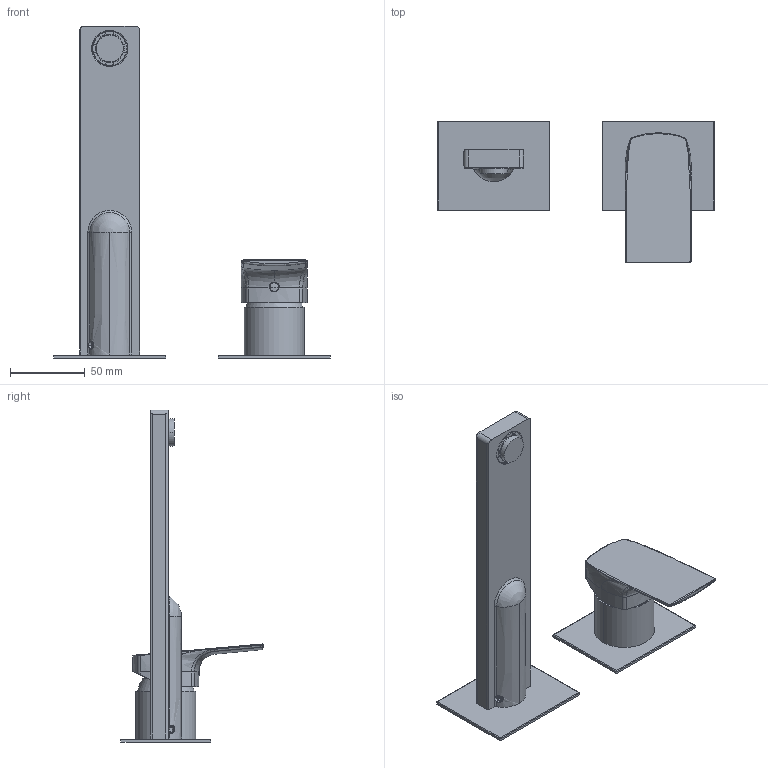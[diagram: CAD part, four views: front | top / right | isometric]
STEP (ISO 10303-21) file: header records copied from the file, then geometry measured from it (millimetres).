
FILE_DESCRIPTION((''),'2;1');
FILE_NAME('3D_SW0008','2024-10-07T16:48:50',('volponeff'),(''),'CREO PARAMETRIC BY PTC INC, 2022014','CREO PARAMETRIC BY PTC INC, 2022014','');
FILE_SCHEMA(('CONFIG_CONTROL_DESIGN'));
Products named in the file (1): 3D_SW0008
Bounding box: 185 x 95 x 222 mm (x, y, z)
Volume: 170441.8 mm3; surface area: 95351.2 mm2
Topology: 4 solids, 4 shells, 952 faces, 2680 edges, 1736 vertices
Faces by surface type: cylinder 362, plane 316, bspline 100, torus 87, cone 71, sphere 16
Entity records: 66625 total; most frequent: CARTESIAN_POINT 42742, ORIENTED_EDGE 5342, DIRECTION 4628, EDGE_CURVE 2671, VERTEX_POINT 1736, AXIS2_PLACEMENT_3D 1733, VECTOR 1162, LINE 1162
